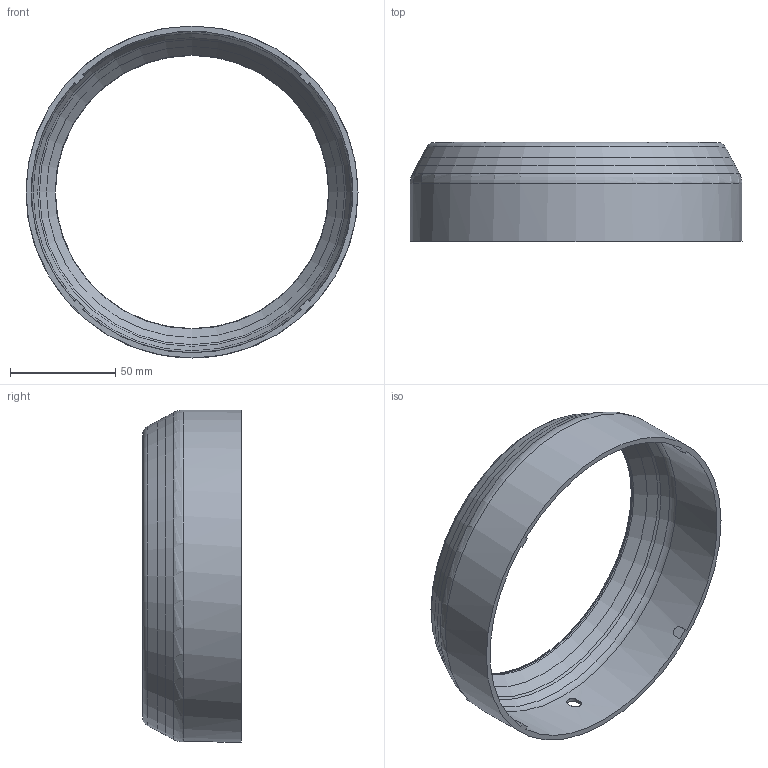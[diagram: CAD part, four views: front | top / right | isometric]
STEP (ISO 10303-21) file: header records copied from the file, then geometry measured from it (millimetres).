
FILE_DESCRIPTION(/* description */ ('','CAx-IF Rec.Pracs.---Representation and Presentation of Product Manufacturing Information (PMI)---4.0---2014-10-13'),/* implementation_level */ '2;1');
FILE_NAME(/* name */ 'MT-01-X-Ring_no-support.stp',/* time_stamp */ '2025-04-04T11:29:17+02:00',/* author */ ('CDA'),/* organization */ (''),/* preprocessor_version */ 'ST-DEVELOPER v20',/* originating_system */ 'Autodesk Inventor 2024',/* authorisation */ '');
FILE_SCHEMA (('AP242_MANAGED_MODEL_BASED_3D_ENGINEERING_MIM_LF { 1 0 10303 442 1 1 4 }'));
Length unit declared in the file: millimetre
Products named in the file (1): MT-01-X-Ring_no-support
Bounding box: 158 x 47 x 158 mm (x, y, z)
Volume: 67087.5 mm3; surface area: 57376.5 mm2
Topology: 3 solids, 3 shells, 58 faces, 149 edges, 96 vertices
Faces by surface type: plane 21, cylinder 13, bspline 12, cone 7, torus 5
Full cylindrical faces by diameter (mm): 130 x1, 153 x1, 158 x1
Entity records: 6710 total; most frequent: CARTESIAN_POINT 5256, ORIENTED_EDGE 298, DIRECTION 281, EDGE_CURVE 149, AXIS2_PLACEMENT_3D 110, VERTEX_POINT 96, EDGE_LOOP 65, LINE 61
